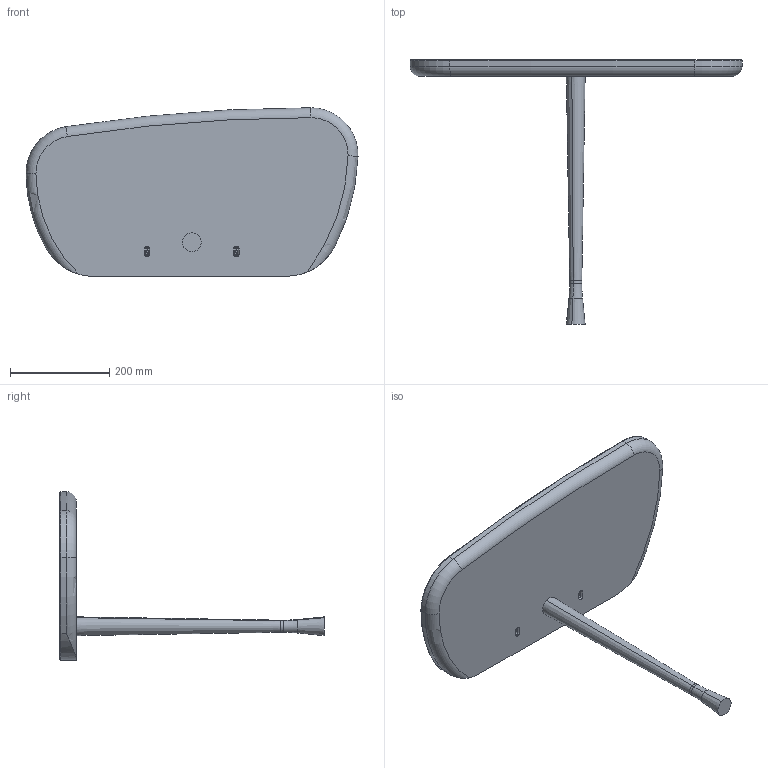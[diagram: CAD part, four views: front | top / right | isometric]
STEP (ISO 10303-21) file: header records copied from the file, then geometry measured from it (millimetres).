
FILE_DESCRIPTION (( 'STEP AP203' ), '1' );
FILE_NAME ('MESITA.STEP', '2017-05-05T07:34:49', ( 'Usuario' ), ( '' ), 'SwSTEP 2.0', 'SolidWorks 2016', '' );
FILE_SCHEMA (( 'CONFIG_CONTROL_DESIGN' ));
Length unit declared in the file: millimetre
Products named in the file (4): 1_PALO_BASE_MESITA; MESITA; 2_REPISA_NOGAL; 3_ANCLAJE_MESITA
Assembly tree (3 placements, depth 2):
  MESITA
    2_REPISA_NOGAL
    1_PALO_BASE_MESITA
    3_ANCLAJE_MESITA
Bounding box: 670 x 533 x 340 mm (x, y, z)
Volume: 5927027.7 mm3; surface area: 551031.7 mm2
Topology: 4 solids, 4 shells, 139 faces, 341 edges, 214 vertices
Faces by surface type: cylinder 53, plane 44, torus 26, cone 12, bspline 4
Entity records: 17896 total; most frequent: CARTESIAN_POINT 14107, DIRECTION 755, ORIENTED_EDGE 682, EDGE_CURVE 341, AXIS2_PLACEMENT_3D 299, VERTEX_POINT 214, EDGE_LOOP 161, CIRCLE 158
